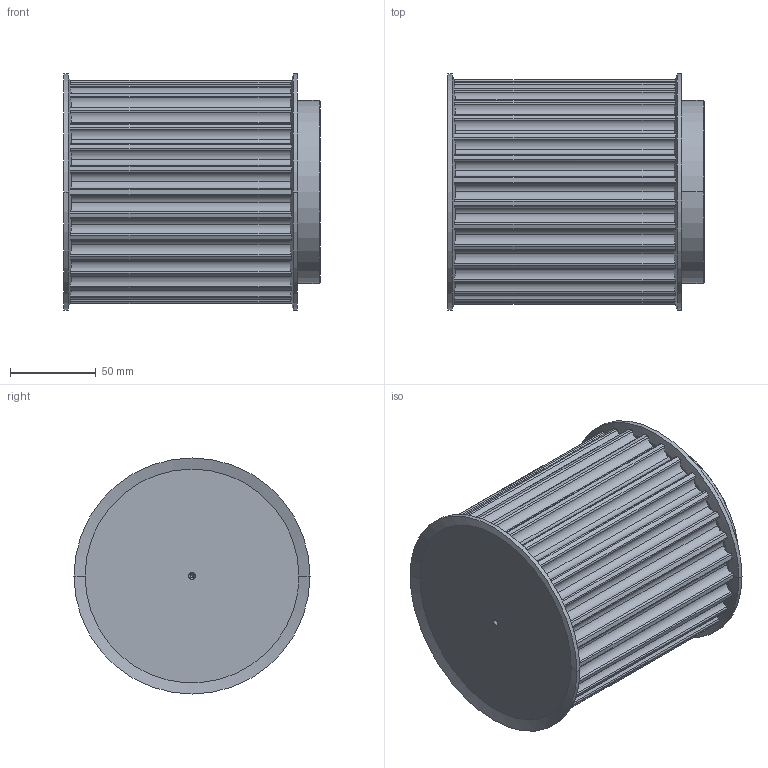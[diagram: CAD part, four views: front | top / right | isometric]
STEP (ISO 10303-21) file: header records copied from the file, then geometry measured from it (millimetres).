
FILE_DESCRIPTION(('STEP AP203'),'1');
FILE_NAME('30_-_14_m_115.stp','2022-04-28T08:18:50',('TraceParts'),('TraceParts S.A.'),'Spatial InterOp 3D',' ',' ');
FILE_SCHEMA(('CONFIG_CONTROL_DESIGN'));
Length unit declared in the file: millimetre
Products named in the file (1): 1
Bounding box: 149.74 x 138 x 138 mm (x, y, z)
Volume: 1803570 mm3; surface area: 110821 mm2
Topology: 1 solids, 1 shells, 241 faces, 700 edges, 460 vertices
Faces by surface type: cylinder 160, plane 63, cone 18
Entity records: 9496 total; most frequent: CARTESIAN_POINT 3318, ORIENTED_EDGE 1392, DIRECTION 1218, EDGE_CURVE 696, AXIS2_PLACEMENT_3D 520, VERTEX_POINT 460, CIRCLE 278, EDGE_LOOP 244
